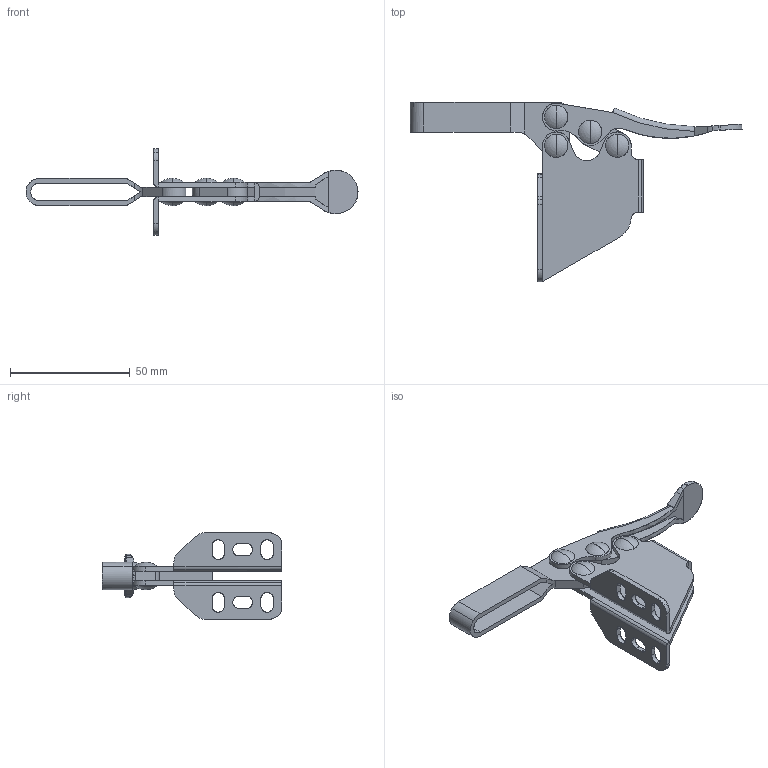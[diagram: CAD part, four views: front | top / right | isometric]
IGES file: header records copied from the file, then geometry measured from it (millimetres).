
Start section: Comment
Global section: file name: 201bsm.igs; native system:  By Spatial Corp.; preprocessor: XPlus PS/IGES 3.0; author: Author; organization: Title; date: 20050217.080244; units: inch
Bounding box: 138.53 x 74.9 x 36 mm (x, y, z)
Surface area: 20692 mm2 (no closed solid volume)
Topology: 0 solids, 0 shells, 222 faces, 1218 edges, 1198 vertices
Faces by surface type: revolution 133, extrusion 89
